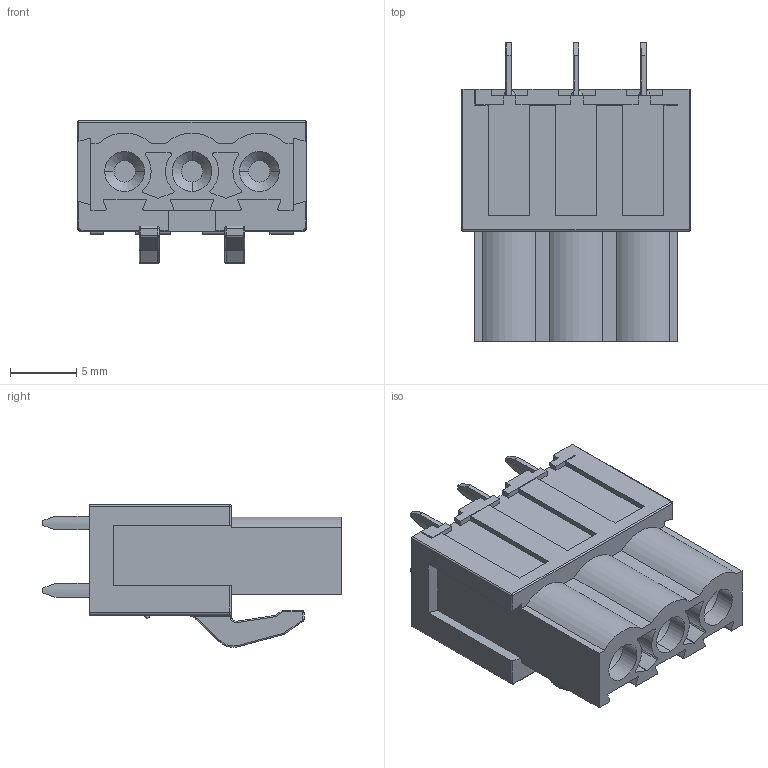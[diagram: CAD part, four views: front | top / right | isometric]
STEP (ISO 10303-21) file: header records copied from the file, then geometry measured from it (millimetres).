
FILE_DESCRIPTION((''),'2;1');
FILE_NAME('3','2019-04-19T',('zhenbing.lai'),(''),'CREO PARAMETRIC BY PTC INC, 2016260','CREO PARAMETRIC BY PTC INC, 2016260','');
FILE_SCHEMA(('CONFIG_CONTROL_DESIGN'));
Length unit declared in the file: millimetre
Products named in the file (1): 3
Bounding box: 17.24 x 22.5 x 10.75 mm (x, y, z)
Volume: 1987.8 mm3; surface area: 1655.2 mm2
Topology: 1 solids, 1 shells, 451 faces, 1200 edges, 769 vertices
Faces by surface type: plane 225, cylinder 151, bspline 37, torus 24, sphere 8, cone 6
Entity records: 15108 total; most frequent: CARTESIAN_POINT 3905, ORIENTED_EDGE 2386, DIRECTION 2282, EDGE_CURVE 1193, AXIS2_PLACEMENT_3D 769, VERTEX_POINT 769, VECTOR 744, LINE 744
